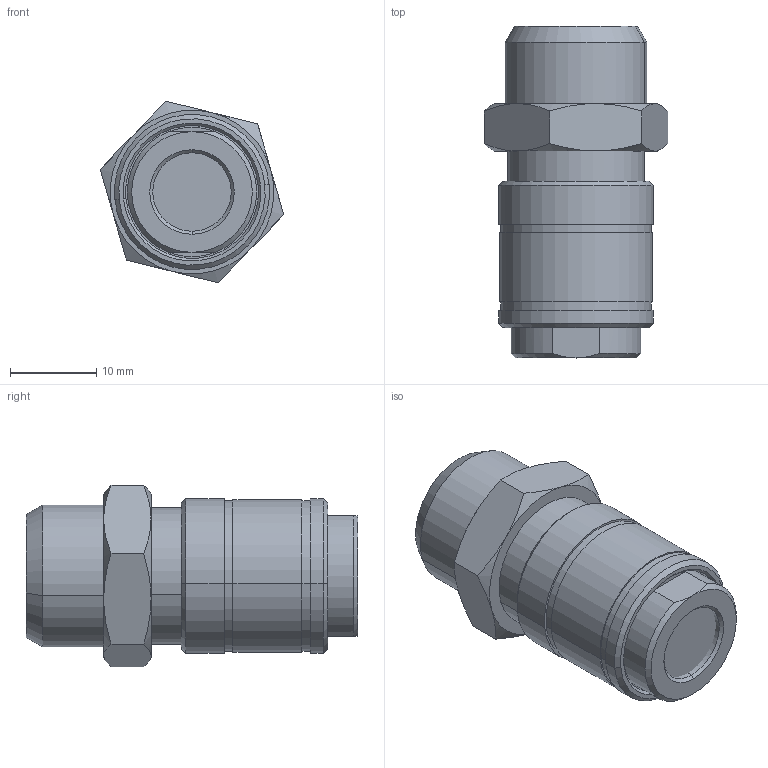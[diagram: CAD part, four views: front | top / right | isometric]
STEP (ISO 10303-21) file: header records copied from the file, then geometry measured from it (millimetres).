
FILE_DESCRIPTION (( 'STEP AP214' ), '1' );
FILE_NAME ('0018100003.step', '2012-11-19T11:01:11', ( '' ), ( '' ), 'SwSTEP 2.0', 'SolidWorks 2012', '' );
FILE_SCHEMA (( 'AUTOMOTIVE_DESIGN' ));
Length unit declared in the file: millimetre
Products named in the file (1): 0018100003
Bounding box: 21.29 x 38.5 x 21.08 mm (x, y, z)
Surface area: 6105.1 mm2 (no closed solid volume)
Topology: 0 solids, 4 shells, 82 faces, 186 edges, 116 vertices
Faces by surface type: cone 34, plane 24, cylinder 24
Entity records: 3421 total; most frequent: CARTESIAN_POINT 751, DIRECTION 408, ORIENTED_EDGE 352, EDGE_CURVE 186, AXIS2_PLACEMENT_3D 175, VERTEX_POINT 116, EDGE_LOOP 96, CIRCLE 92
